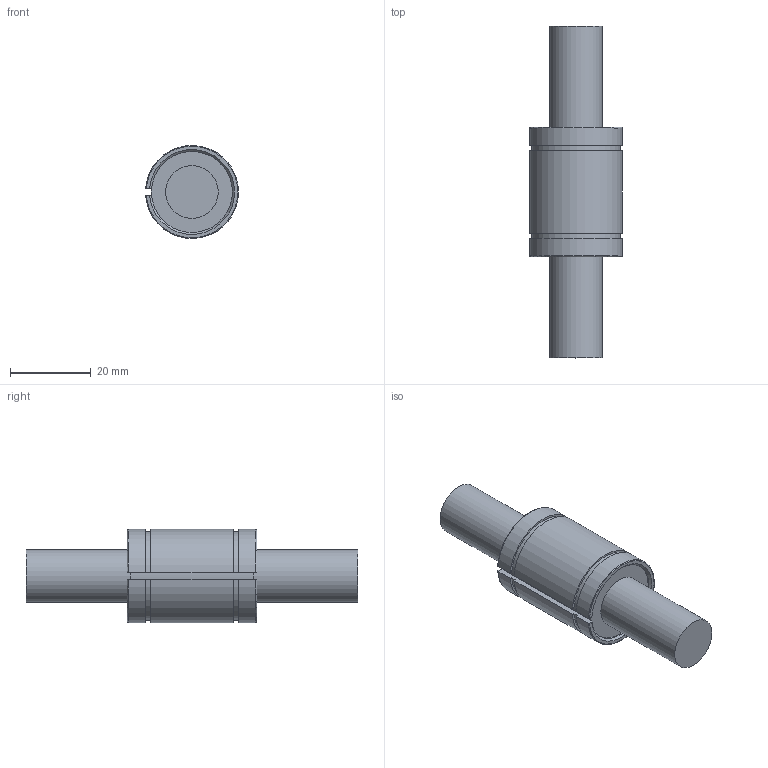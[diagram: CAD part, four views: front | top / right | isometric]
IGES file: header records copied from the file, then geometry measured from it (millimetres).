
Global section: file name: No Iges File Name specified; native system: Autodesk Inventor 2012; preprocessor: AutoDesk Inventor Iges Exporter R2012; author: user2; date: 20130206.101551; units: millimetre
Bounding box: 22.98 x 82 x 22.99 mm (x, y, z)
Volume: 19462.7 mm3; surface area: 5517.6 mm2
Topology: 1 solids, 1 shells, 26 faces, 64 edges, 42 vertices
Faces by surface type: plane 12, cylinder 8, revolution 4, torus 2
Full cylindrical faces by diameter (mm): 13 x2
